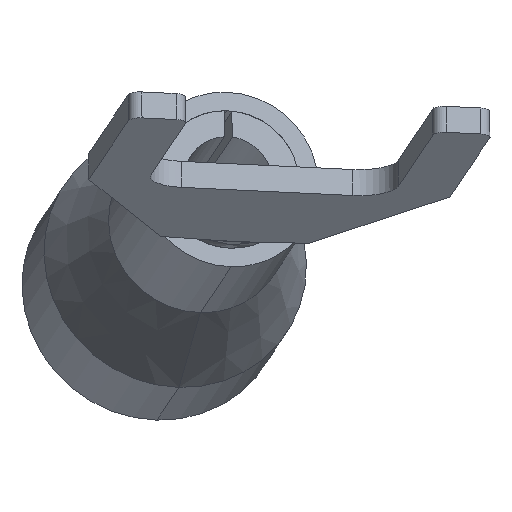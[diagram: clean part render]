
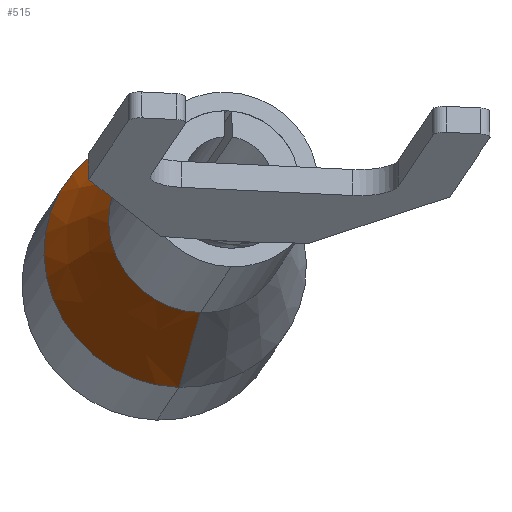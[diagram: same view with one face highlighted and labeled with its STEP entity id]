
A CAD part, front view. The second image highlights one B-rep face of the part: STEP entity #515.
In plain terms, the highlighted conical face has half-angle 19.537 degrees and reference radius 2.35 mm.
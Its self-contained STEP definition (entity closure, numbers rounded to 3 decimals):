
#15 = AXIS2_PLACEMENT_3D ( 'NONE', #648, #1689, #808 ) ;
#262 = VERTEX_POINT ( 'NONE', #1613 ) ;
#304 = CARTESIAN_POINT ( 'NONE',  ( 0., 4.2, 0. ) ) ;
#466 = AXIS2_PLACEMENT_3D ( 'NONE', #304, #551, #1181 ) ;
#476 = ORIENTED_EDGE ( 'NONE', *, *, #1751, .F. ) ;
#515 = ADVANCED_FACE ( 'NONE', ( #674 ), #981, .T. ) ;
#538 = CARTESIAN_POINT ( 'NONE',  ( 0., 7.3, 3.45 ) ) ;
#541 = EDGE_CURVE ( 'NONE', #620, #1557, #1472, .T. ) ;
#551 = DIRECTION ( 'NONE',  ( 0., 1., 0. ) ) ;
#620 = VERTEX_POINT ( 'NONE', #538 ) ;
#626 = EDGE_LOOP ( 'NONE', ( #476, #1610, #883, #1897 ) ) ;
#648 = CARTESIAN_POINT ( 'NONE',  ( 0., 4.2, 0. ) ) ;
#674 = FACE_OUTER_BOUND ( 'NONE', #626, .T. ) ;
#751 = EDGE_CURVE ( 'NONE', #262, #1862, #791, .T. ) ;
#791 = CIRCLE ( 'NONE', #15, 2.35 ) ;
#808 = DIRECTION ( 'NONE',  ( 0., 0., -1. ) ) ;
#856 = CARTESIAN_POINT ( 'NONE',  ( 0., 7.3, 0. ) ) ;
#883 = ORIENTED_EDGE ( 'NONE', *, *, #1560, .T. ) ;
#981 = CONICAL_SURFACE ( 'NONE', #466, 2.35, 0.341 ) ;
#1013 = DIRECTION ( 'NONE',  ( 0., 0., -1. ) ) ;
#1072 = VECTOR ( 'NONE', #1157, 1000. ) ;
#1087 = CARTESIAN_POINT ( 'NONE',  ( 0., 7.3, -3.45 ) ) ;
#1115 = CARTESIAN_POINT ( 'NONE',  ( 0., 4.2, 2.35 ) ) ;
#1150 = VECTOR ( 'NONE', #1817, 1000. ) ;
#1157 = DIRECTION ( 'NONE',  ( 0., 0.942, 0.334 ) ) ;
#1181 = DIRECTION ( 'NONE',  ( 0., 0., 1. ) ) ;
#1186 = AXIS2_PLACEMENT_3D ( 'NONE', #856, #1885, #1013 ) ;
#1351 = CARTESIAN_POINT ( 'NONE',  ( 0., 4.2, -2.35 ) ) ;
#1470 = LINE ( 'NONE', #1115, #1072 ) ;
#1472 = CIRCLE ( 'NONE', #1186, 3.45 ) ;
#1533 = LINE ( 'NONE', #1914, #1150 ) ;
#1557 = VERTEX_POINT ( 'NONE', #1087 ) ;
#1560 = EDGE_CURVE ( 'NONE', #262, #620, #1470, .T. ) ;
#1610 = ORIENTED_EDGE ( 'NONE', *, *, #751, .F. ) ;
#1613 = CARTESIAN_POINT ( 'NONE',  ( 0., 4.2, 2.35 ) ) ;
#1689 = DIRECTION ( 'NONE',  ( 0., -1., 0. ) ) ;
#1751 = EDGE_CURVE ( 'NONE', #1862, #1557, #1533, .T. ) ;
#1817 = DIRECTION ( 'NONE',  ( 0., 0.942, -0.334 ) ) ;
#1862 = VERTEX_POINT ( 'NONE', #1351 ) ;
#1885 = DIRECTION ( 'NONE',  ( 0., -1., 0. ) ) ;
#1897 = ORIENTED_EDGE ( 'NONE', *, *, #541, .T. ) ;
#1914 = CARTESIAN_POINT ( 'NONE',  ( 0., 4.2, -2.35 ) ) ;
